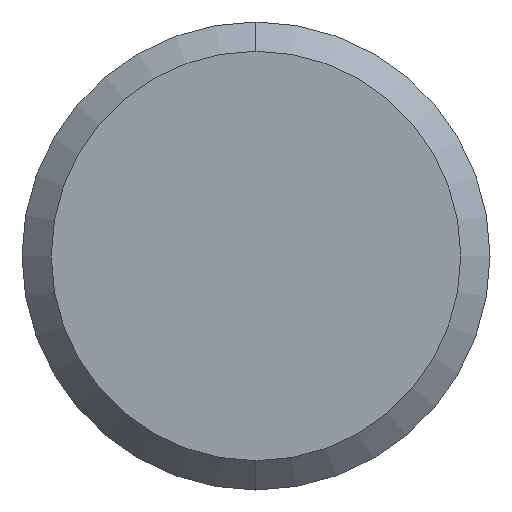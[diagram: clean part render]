
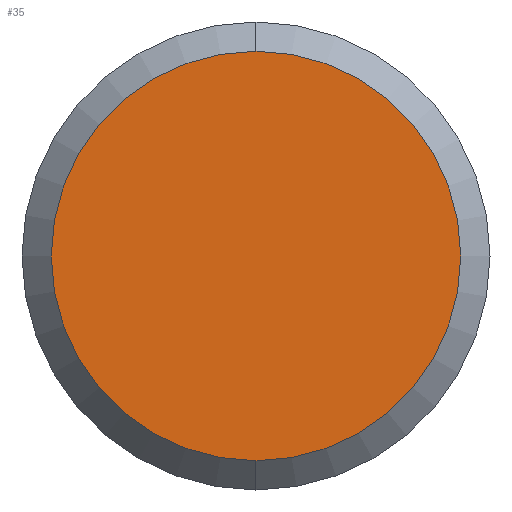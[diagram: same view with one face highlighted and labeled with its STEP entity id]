
A CAD part, left-side view. The second image highlights one B-rep face of the part: STEP entity #35.
In plain terms, the highlighted planar face has unit normal (-1, 0, 0).
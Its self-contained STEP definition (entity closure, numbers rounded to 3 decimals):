
#6 = EDGE_CURVE ( 'NONE', #225, #86, #197, .T. ) ;
#35 = ADVANCED_FACE ( 'NONE', ( #321 ), #216, .F. ) ;
#48 = CARTESIAN_POINT ( 'NONE',  ( -123., 0., 7. ) ) ;
#70 = ORIENTED_EDGE ( 'NONE', *, *, #6, .T. ) ;
#86 = VERTEX_POINT ( 'NONE', #95 ) ;
#94 = DIRECTION ( 'NONE',  ( 0., 0., -1. ) ) ;
#95 = CARTESIAN_POINT ( 'NONE',  ( -123., 0., -7. ) ) ;
#146 = AXIS2_PLACEMENT_3D ( 'NONE', #305, #328, #162 ) ;
#162 = DIRECTION ( 'NONE',  ( 0., 0., -1. ) ) ;
#189 = EDGE_CURVE ( 'NONE', #86, #225, #260, .T. ) ;
#197 = CIRCLE ( 'NONE', #247, 7. ) ;
#213 = CARTESIAN_POINT ( 'NONE',  ( -123., 8., 0. ) ) ;
#216 = PLANE ( 'NONE',  #275 ) ;
#218 = DIRECTION ( 'NONE',  ( 1., 0., 0. ) ) ;
#225 = VERTEX_POINT ( 'NONE', #48 ) ;
#245 = EDGE_LOOP ( 'NONE', ( #259, #70 ) ) ;
#247 = AXIS2_PLACEMENT_3D ( 'NONE', #303, #325, #327 ) ;
#259 = ORIENTED_EDGE ( 'NONE', *, *, #189, .T. ) ;
#260 = CIRCLE ( 'NONE', #146, 7. ) ;
#275 = AXIS2_PLACEMENT_3D ( 'NONE', #213, #218, #94 ) ;
#303 = CARTESIAN_POINT ( 'NONE',  ( -123., 0., 0. ) ) ;
#305 = CARTESIAN_POINT ( 'NONE',  ( -123., 0., 0. ) ) ;
#321 = FACE_OUTER_BOUND ( 'NONE', #245, .T. ) ;
#325 = DIRECTION ( 'NONE',  ( -1., 0., 0. ) ) ;
#327 = DIRECTION ( 'NONE',  ( 0., 0., -1. ) ) ;
#328 = DIRECTION ( 'NONE',  ( -1., 0., 0. ) ) ;
